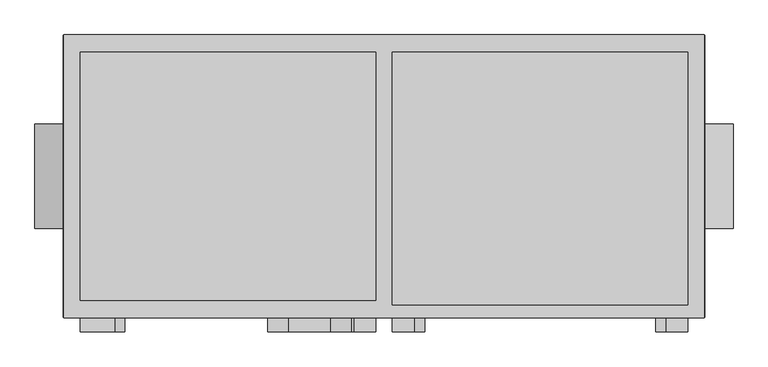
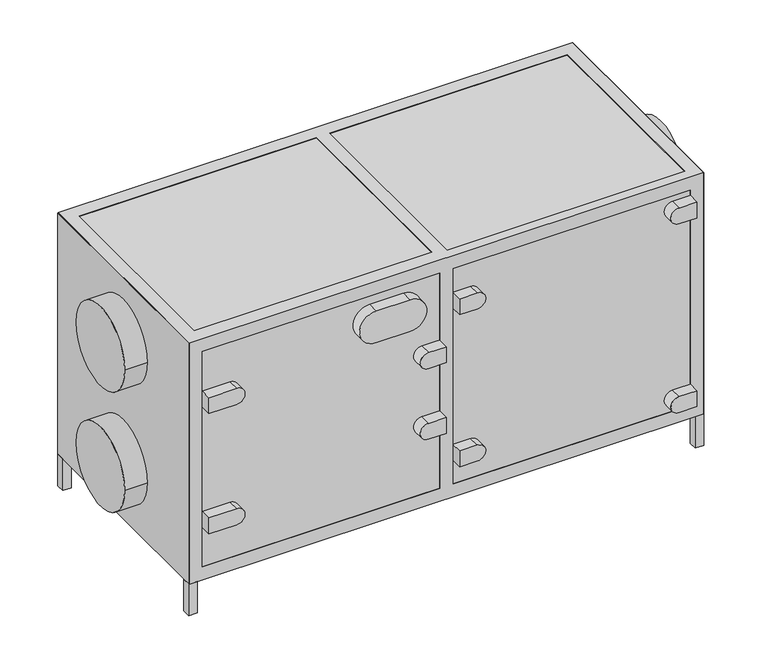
"""IFC4 building model written with IfcOpenShell, lengths in millimetres: proxy geometry, AVS 400...1600-S-RC(RG)-R : AVS 1100-S-RC-R."""

from ifc_helpers import new_model, si_unit, point, frame, frame_2d, origin, origin_with_axes, place, context, project, spatial, polyline, circle_curve, trimmed, segment, composite_curve, outline, extrude, faceted_brep, source, transform, mapped, element, save


def mechanical_equipment_346894f1(model_context):
    return source(origin(), model_context, "Body", "SolidModel", [
        extrude(outline(polyline([(743.0, 338.0), (768.0, 338.0), (768.0, 313.0), (743.0, 313.0), (743.0, 338.0)])), origin_with_axes(), (0.0, 0.0, 1.0), 100.0),
        extrude(outline(polyline([(743.0, -338.0), (743.0, -313.0), (768.0, -313.0), (768.0, -338.0), (743.0, -338.0)])), origin_with_axes(), (0.0, 0.0, 1.0), 100.0),
        extrude(outline(polyline([(-768.0, 313.0), (-768.0, 338.0), (-743.0, 338.0), (-743.0, 313.0), (-768.0, 313.0)])), origin_with_axes(), (0.0, 0.0, 1.0), 100.0),
        extrude(outline(polyline([(-768.0, -313.0), (-743.0, -313.0), (-743.0, -338.0), (-768.0, -338.0), (-768.0, -313.0)])), origin_with_axes(), (0.0, 0.0, 1.0), 100.0),
        faceted_brep([(767.0, 339.0, 861.0), (-767.0, 339.0, 861.0), (-767.0, -339.0, 861.0), (767.0, -339.0, 861.0), (-728.0, 298.0, 861.0), (-20.0, 298.0, 861.0), (-20.0, -298.0, 861.0), (-728.0, -298.0, 861.0), (728.0, 298.0, 861.0), (728.0, -309.0, 861.0), (20.0, -309.0, 861.0), (20.0, 298.0, 861.0), (767.0, 339.0, 99.0), (767.0, -339.0, 99.0), (-767.0, -339.0, 99.0), (-767.0, 339.0, 99.0), (-20.0, 298.0, 99.0), (-728.0, 298.0, 99.0), (-728.0, -298.0, 99.0), (-20.0, -298.0, 99.0), (728.0, -309.0, 99.0), (728.0, 298.0, 99.0), (20.0, 298.0, 99.0), (20.0, -309.0, 99.0), (-20.0, 339.0, 820.0), (-728.0, 339.0, 820.0), (-728.0, 339.0, 140.0), (-20.0, 339.0, 140.0), (728.0, 339.0, 140.0), (728.0, 339.0, 820.0), (20.0, 339.0, 820.0), (20.0, 339.0, 140.0), (-767.0, -298.0, 820.0), (-767.0, -298.0, 140.0), (-767.0, 298.0, 140.0), (-767.0, 298.0, 820.0), (-728.0, -339.0, 820.0), (-20.0, -339.0, 820.0), (-20.0, -339.0, 140.0), (-728.0, -339.0, 140.0), (728.0, -339.0, 820.0), (728.0, -339.0, 140.0), (20.0, -339.0, 140.0), (20.0, -339.0, 820.0), (767.0, -298.0, 140.0), (767.0, -298.0, 820.0), (767.0, 298.0, 820.0), (767.0, 298.0, 140.0), (-728.0, 298.0, 820.0), (-20.0, 298.0, 820.0), (-20.0, 298.0, 140.0), (-728.0, 298.0, 140.0), (-20.0, -298.0, 820.0), (-728.0, -298.0, 820.0), (-728.0, -298.0, 140.0), (-20.0, -298.0, 140.0), (728.0, 298.0, 820.0), (728.0, -298.0, 820.0), (728.0, -298.0, 140.0), (728.0, 298.0, 140.0), (728.0, -309.0, 140.0), (728.0, -309.0, 820.0), (20.0, 298.0, 820.0), (20.0, -298.0, 820.0), (20.0, -298.0, 140.0), (20.0, 298.0, 140.0), (20.0, -309.0, 820.0), (20.0, -309.0, 140.0)], [[[0, 1, 2, 3], [4, 5, 6, 7], [8, 9, 10, 11]], [[12, 13, 14, 15], [16, 17, 18, 19], [20, 21, 22, 23]], [[1, 0, 12, 15], [24, 25, 26, 27], [28, 29, 30, 31]], [[2, 1, 15, 14], [32, 33, 34, 35]], [[3, 2, 14, 13], [36, 37, 38, 39], [40, 41, 42, 43]], [[0, 3, 13, 12], [44, 45, 46, 47]], [[5, 4, 48, 49]], [[17, 16, 50, 51]], [[7, 6, 52, 53]], [[19, 18, 54, 55]], [[9, 8, 56, 57, 58, 59, 21, 20, 60, 41, 40, 61]], [[56, 29, 28, 59]], [[35, 48, 53, 32]], [[56, 46, 45, 57]], [[49, 62, 63, 52]], [[51, 34, 33, 54]], [[47, 59, 58, 44]], [[55, 64, 65, 50]], [[36, 53, 52, 37]], [[24, 49, 48, 25]], [[54, 39, 38, 55]], [[50, 27, 26, 51]], [[32, 53, 54, 33]], [[57, 45, 44, 58]], [[52, 63, 64, 55]], [[48, 35, 34, 51]], [[62, 49, 50, 65]], [[59, 47, 46, 56]], [[4, 7, 53, 48]], [[18, 17, 51, 54]], [[53, 36, 39, 54]], [[25, 48, 51, 26]], [[6, 5, 49, 52]], [[16, 19, 55, 50]], [[37, 52, 55, 38]], [[49, 24, 27, 50]], [[8, 11, 62, 56]], [[22, 21, 59, 65]], [[11, 10, 66, 43, 42, 67, 23, 22, 65, 64, 63, 62]], [[30, 62, 65, 31]], [[10, 9, 61, 66]], [[20, 23, 67, 60]], [[61, 40, 43, 66]], [[29, 56, 62, 30]], [[41, 60, 67, 42]], [[59, 28, 31, 65]]]),
        extrude(outline(polyline([(-768.0, 338.0), (768.0, 338.0), (768.0, -338.0), (-768.0, -338.0), (-768.0, 338.0)])), frame((0.0, 0.0, 100.0), z_axis=(0.0, 0.0, 1.0), x_axis=(1.0, 0.0, 0.0)), (0.0, 0.0, 1.0), 760.0),
        extrude(outline(composite_curve([segment(polyline([(695.0, -645.2895396), (695.0, -728.0), (645.0, -728.0), (645.0, -645.2895396)]), True, "CONTINUOUS"), segment(trimmed(circle_curve(frame_2d((670.0, -645.2895396)), 25.0), [point((645.0, -645.2895396))], [point((695.0, -645.2895396))], False, "CARTESIAN"), True, "CONTINUOUS")], self_intersect=False)), frame((0.0, -373.0, 0.0), z_axis=(0.0, 1.0, 0.0), x_axis=(0.0, 0.0, 1.0)), (0.0, 0.0, 1.0), 35.0),
        extrude(outline(composite_curve([segment(polyline([(315.0, -645.2895396), (315.0, -728.0), (265.0, -728.0), (265.0, -645.2895396)]), True, "CONTINUOUS"), segment(trimmed(circle_curve(frame_2d((290.0, -645.2895396)), 25.0), [point((265.0, -645.2895396))], [point((315.0, -645.2895396))], False, "CARTESIAN"), True, "CONTINUOUS")], self_intersect=False)), frame((0.0, -373.0, 0.0), z_axis=(0.0, 1.0, 0.0), x_axis=(0.0, 0.0, 1.0)), (0.0, 0.0, 1.0), 35.0),
        extrude(outline(composite_curve([segment(trimmed(circle_curve(frame_2d((583.0, -72.7104604)), 25.0), [point((608.0, -72.7104604))], [point((558.0, -72.7104604))], False, "CARTESIAN"), True, "CONTINUOUS"), segment(polyline([(558.0, -72.7104604), (558.0, -20.0), (608.0, -20.0), (608.0, -72.7104604)]), True, "CONTINUOUS")], self_intersect=False)), frame((0.0, -373.0, 0.0), z_axis=(0.0, 1.0, 0.0), x_axis=(0.0, 0.0, 1.0)), (0.0, 0.0, 1.0), 35.0),
        extrude(outline(composite_curve([segment(polyline([(335.0, -72.7104604), (335.0, -20.0), (385.0, -20.0), (385.0, -72.7104604)]), True, "CONTINUOUS"), segment(trimmed(circle_curve(frame_2d((360.0, -72.7104604)), 25.0), [point((385.0, -72.7104604))], [point((335.0, -72.7104604))], False, "CARTESIAN"), True, "CONTINUOUS")], self_intersect=False)), frame((0.0, -373.0, 0.0), z_axis=(0.0, 1.0, 0.0), x_axis=(0.0, 0.0, 1.0)), (0.0, 0.0, 1.0), 35.0),
        extrude(outline(composite_curve([segment(trimmed(circle_curve(frame_2d((778.0, 675.2895396)), 25.0), [point((803.0, 675.2895396))], [point((753.0, 675.2895396))], False, "CARTESIAN"), True, "CONTINUOUS"), segment(polyline([(753.0, 675.2895396), (753.0, 728.0), (803.0, 728.0), (803.0, 675.2895396)]), True, "CONTINUOUS")], self_intersect=False)), frame((0.0, -373.0, 0.0), z_axis=(0.0, 1.0, 0.0), x_axis=(0.0, 0.0, 1.0)), (0.0, 0.0, 1.0), 35.0),
        extrude(outline(composite_curve([segment(polyline([(157.0, 675.2895396), (157.0, 728.0), (207.0, 728.0), (207.0, 675.2895396)]), True, "CONTINUOUS"), segment(trimmed(circle_curve(frame_2d((182.0, 675.2895396)), 25.0), [point((207.0, 675.2895396))], [point((157.0, 675.2895396))], False, "CARTESIAN"), True, "CONTINUOUS")], self_intersect=False)), frame((0.0, -373.0, 0.0), z_axis=(0.0, 1.0, 0.0), x_axis=(0.0, 0.0, 1.0)), (0.0, 0.0, 1.0), 35.0),
        extrude(outline(composite_curve([segment(polyline([(745.0, 72.7104604), (745.0, 20.0), (695.0, 20.0), (695.0, 72.7104604)]), True, "CONTINUOUS"), segment(trimmed(circle_curve(frame_2d((720.0, 72.7104604)), 25.0), [point((695.0, 72.7104604))], [point((745.0, 72.7104604))], False, "CARTESIAN"), True, "CONTINUOUS")], self_intersect=False)), frame((0.0, -373.0, 0.0), z_axis=(0.0, 1.0, 0.0), x_axis=(0.0, 0.0, 1.0)), (0.0, 0.0, 1.0), 35.0),
        extrude(outline(composite_curve([segment(trimmed(circle_curve(frame_2d((240.0, 72.7104604)), 25.0), [point((215.0, 72.7104604))], [point((265.0, 72.7104604))], False, "CARTESIAN"), True, "CONTINUOUS"), segment(polyline([(265.0, 72.7104604), (265.0, 20.0), (215.0, 20.0), (215.0, 72.7104604)]), True, "CONTINUOUS")], self_intersect=False)), frame((0.0, -373.0, 0.0), z_axis=(0.0, 1.0, 0.0), x_axis=(0.0, 0.0, 1.0)), (0.0, 0.0, 1.0), 35.0),
        extrude(outline(composite_curve([segment(polyline([(793.9531077, -128.4249776), (793.9531077, -228.4249776)]), True, "CONTINUOUS"), segment(trimmed(circle_curve(frame_2d((743.9531077, -228.4249776)), 50.0), [point((793.9531077, -228.4249776))], [point((693.9531077, -228.4249776))], False, "CARTESIAN"), True, "CONTINUOUS"), segment(polyline([(693.9531077, -228.4249776), (693.9531077, -128.4249776)]), True, "CONTINUOUS"), segment(trimmed(circle_curve(frame_2d((743.9531077, -128.4249776)), 50.0), [point((693.9531077, -128.4249776))], [point((793.9531077, -128.4249776))], False, "CARTESIAN"), True, "CONTINUOUS")], self_intersect=False)), frame((0.0, -373.0, 0.0), z_axis=(0.0, 1.0, 0.0), x_axis=(0.0, 0.0, 1.0)), (0.0, 0.0, 1.0), 35.0),
        extrude(outline(composite_curve([segment(trimmed(circle_curve(frame_2d((0.0, 670.0)), 125.0), [point((-125.0, 670.0))], [point((125.0, 670.0))], False, "CARTESIAN"), True, "CONTINUOUS"), segment(trimmed(circle_curve(frame_2d((0.0, 670.0)), 125.0), [point((125.0, 670.0))], [point((-125.0, 670.0))], False, "CARTESIAN"), True, "CONTINUOUS")], self_intersect=False)), frame((-836.0, 0.0, 0.0), z_axis=(1.0, 0.0, 0.0), x_axis=(0.0, 1.0, 0.0)), (0.0, 0.0, 1.0), 68.0),
        extrude(outline(composite_curve([segment(trimmed(circle_curve(frame_2d((0.0, 290.0)), 125.0), [point((-125.0, 290.0))], [point((125.0, 290.0))], False, "CARTESIAN"), True, "CONTINUOUS"), segment(trimmed(circle_curve(frame_2d((0.0, 290.0)), 125.0), [point((125.0, 290.0))], [point((-125.0, 290.0))], False, "CARTESIAN"), True, "CONTINUOUS")], self_intersect=False)), frame((-836.0, 0.0, 0.0), z_axis=(1.0, 0.0, 0.0), x_axis=(0.0, 1.0, 0.0)), (0.0, 0.0, 1.0), 68.0),
        extrude(outline(composite_curve([segment(trimmed(circle_curve(frame_2d((0.0, 670.0)), 125.0), [point((-125.0, 670.0))], [point((125.0, 670.0))], False, "CARTESIAN"), True, "CONTINUOUS"), segment(trimmed(circle_curve(frame_2d((0.0, 670.0)), 125.0), [point((125.0, 670.0))], [point((-125.0, 670.0))], False, "CARTESIAN"), True, "CONTINUOUS")], self_intersect=False)), frame((768.0, 0.0, 0.0), z_axis=(1.0, 0.0, 0.0), x_axis=(0.0, 1.0, 0.0)), (0.0, 0.0, 1.0), 68.0),
        extrude(outline(composite_curve([segment(trimmed(circle_curve(frame_2d((0.0, 290.0)), 125.0), [point((-125.0, 290.0))], [point((125.0, 290.0))], False, "CARTESIAN"), True, "CONTINUOUS"), segment(trimmed(circle_curve(frame_2d((0.0, 290.0)), 125.0), [point((125.0, 290.0))], [point((-125.0, 290.0))], False, "CARTESIAN"), True, "CONTINUOUS")], self_intersect=False)), frame((768.0, 0.0, 0.0), z_axis=(1.0, 0.0, 0.0), x_axis=(0.0, 1.0, 0.0)), (0.0, 0.0, 1.0), 68.0),
    ])


if __name__ == "__main__":
    model = new_model("IFC4")
    model_context = context("Model", 3, world=origin())
    ifc_project = project(units=[si_unit("LENGTHUNIT", "METRE", prefix="MILLI")], contexts=[model_context])
    site = spatial("IfcSite", under=ifc_project)
    building = spatial("IfcBuilding", under=site)
    placement = place(None, origin())
    mechanical_equipment_shape = mechanical_equipment_346894f1(model_context)
    element("IfcBuildingElementProxy", 1, Name="AVS 400...1600-S-RC(RG)-R : AVS 1100-S-RC-R", ObjectType="AVS 400...1600-S-RC(RG)-R : AVS 1100-S-RC-R", at=placement, inside=building, context=model_context, shape_type="MappedRepresentation", body=[
        mapped(mechanical_equipment_shape, transform((0.0, 0.0, 0.0), x_axis=(1.0, 0.0, 0.0), y_axis=(0.0, 1.0, 0.0), z_axis=(0.0, 0.0, 1.0))),
    ])
    save(model, "model.ifc")
